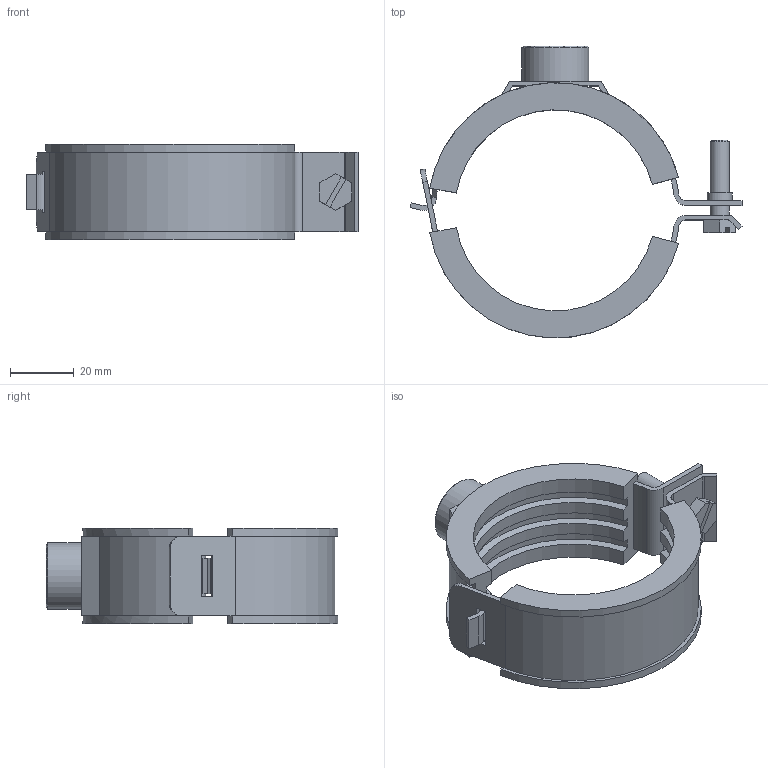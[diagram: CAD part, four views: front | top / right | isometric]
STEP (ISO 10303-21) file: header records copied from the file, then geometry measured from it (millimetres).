
FILE_DESCRIPTION(/* description */ (''),/* implementation_level */ '2;1');
FILE_NAME(/* name */ 'H:\Geberit-Teile\Export\Rohrschelle gedämmt ART\stp\306812.stp',/* time_stamp */ '2014-04-15T15:31:36+02:00',/* author */ ('seihe2'),/* organization */ (''),/* preprocessor_version */ 'ST-DEVELOPER v15.2',/* originating_system */ 'Autodesk Inventor 2014',/* authorisation */ '');
FILE_SCHEMA (('AUTOMOTIVE_DESIGN { 1 0 10303 214 3 1 1 }'));
Length unit declared in the file: millimetre
Products named in the file (1): 306812
Bounding box: 104.07 x 91.46 x 30 mm (x, y, z)
Volume: 47394.7 mm3; surface area: 25686.2 mm2
Topology: 1 solids, 1 shells, 133 faces, 376 edges, 242 vertices
Faces by surface type: plane 73, cylinder 46, cone 14
Full cylindrical faces by diameter (mm): 6 x2, 7.75 x1, 10 x1, 20.95 x1
Entity records: 4442 total; most frequent: CARTESIAN_POINT 752, DIRECTION 751, ORIENTED_EDGE 736, EDGE_CURVE 368, LINE 251, VECTOR 251, AXIS2_PLACEMENT_3D 250, VERTEX_POINT 241
